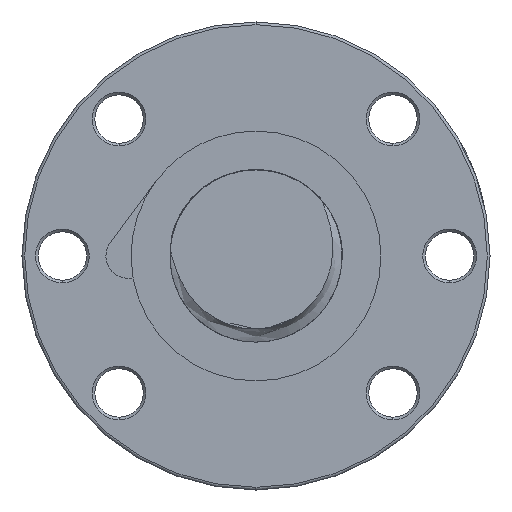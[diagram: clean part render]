
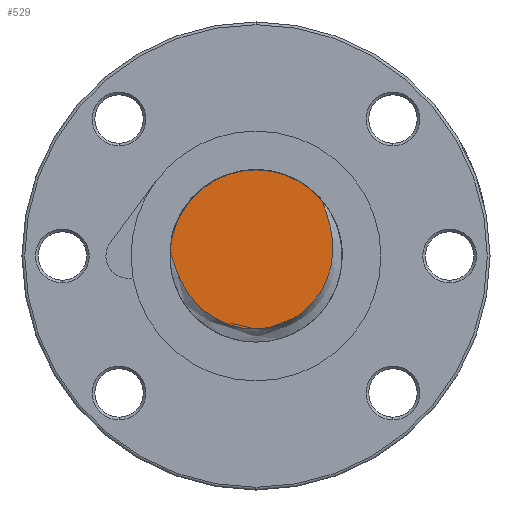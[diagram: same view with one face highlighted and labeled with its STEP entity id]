
A CAD part, left-side view. The second image highlights one B-rep face of the part: STEP entity #529.
In plain terms, the highlighted planar face has unit normal (-1, 0, 0).
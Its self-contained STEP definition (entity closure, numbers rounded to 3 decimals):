
#207 = EDGE_CURVE ( 'NONE', #1281, #208, #3668, .T. ) ;
#208 = VERTEX_POINT ( 'NONE', #3664 ) ;
#529 = ADVANCED_FACE ( 'NONE', ( #45760 ), #45750, .F. ) ;
#530 = ORIENTED_EDGE ( 'NONE', *, *, #1279, .F. ) ;
#531 = ORIENTED_EDGE ( 'NONE', *, *, #536, .T. ) ;
#536 = EDGE_CURVE ( 'NONE', #1280, #208, #45737, .T. ) ;
#537 = ORIENTED_EDGE ( 'NONE', *, *, #207, .F. ) ;
#553 = EDGE_LOOP ( 'NONE', ( #530, #531, #537 ) ) ;
#1279 = EDGE_CURVE ( 'NONE', #1280, #1281, #13437, .T. ) ;
#1280 = VERTEX_POINT ( 'NONE', #13438 ) ;
#1281 = VERTEX_POINT ( 'NONE', #13433 ) ;
#3591 = CARTESIAN_POINT ( 'NONE',  ( -203., 0., 0. ) ) ;
#3664 = CARTESIAN_POINT ( 'NONE',  ( -203., -12.254, 10.288 ) ) ;
#3665 = DIRECTION ( 'NONE',  ( 0., 1., 0. ) ) ;
#3666 = DIRECTION ( 'NONE',  ( 1., 0., 0. ) ) ;
#3667 = AXIS2_PLACEMENT_3D ( 'NONE', #3591, #3666, #3665 ) ;
#3668 = CIRCLE ( 'NONE', #3667, 16. ) ;
#13433 = CARTESIAN_POINT ( 'NONE',  ( -203., 0., 16. ) ) ;
#13434 = DIRECTION ( 'NONE',  ( 0., 1., 0. ) ) ;
#13435 = DIRECTION ( 'NONE',  ( 1., 0., 0. ) ) ;
#13436 = AXIS2_PLACEMENT_3D ( 'NONE', #13443, #13435, #13434 ) ;
#13437 = CIRCLE ( 'NONE', #13436, 16. ) ;
#13438 = CARTESIAN_POINT ( 'NONE',  ( -203., 15.961, 1.121 ) ) ;
#13443 = CARTESIAN_POINT ( 'NONE',  ( -203., 0., 0. ) ) ;
#45675 = CARTESIAN_POINT ( 'NONE',  ( -203., -12.254, 10.288 ) ) ;
#45676 = CARTESIAN_POINT ( 'NONE',  ( -203., -12.336, 10.009 ) ) ;
#45677 = CARTESIAN_POINT ( 'NONE',  ( -203., -12.434, 9.735 ) ) ;
#45678 = CARTESIAN_POINT ( 'NONE',  ( -203., -12.633, 9.188 ) ) ;
#45679 = CARTESIAN_POINT ( 'NONE',  ( -203., -12.735, 8.916 ) ) ;
#45680 = CARTESIAN_POINT ( 'NONE',  ( -203., -13.036, 8.096 ) ) ;
#45681 = CARTESIAN_POINT ( 'NONE',  ( -203., -13.229, 7.547 ) ) ;
#45682 = CARTESIAN_POINT ( 'NONE',  ( -203., -13.573, 6.437 ) ) ;
#45683 = CARTESIAN_POINT ( 'NONE',  ( -203., -13.726, 5.876 ) ) ;
#45684 = CARTESIAN_POINT ( 'NONE',  ( -203., -13.98, 4.739 ) ) ;
#45685 = CARTESIAN_POINT ( 'NONE',  ( -203., -14.082, 4.161 ) ) ;
#45686 = CARTESIAN_POINT ( 'NONE',  ( -203., -14.299, 2.429 ) ) ;
#45687 = CARTESIAN_POINT ( 'NONE',  ( -203., -14.331, 1.272 ) ) ;
#45688 = CARTESIAN_POINT ( 'NONE',  ( -203., -14.187, -0.468 ) ) ;
#45689 = CARTESIAN_POINT ( 'NONE',  ( -203., -14.107, -1.051 ) ) ;
#45690 = CARTESIAN_POINT ( 'NONE',  ( -203., -13.884, -2.192 ) ) ;
#45691 = CARTESIAN_POINT ( 'NONE',  ( -203., -13.741, -2.753 ) ) ;
#45692 = CARTESIAN_POINT ( 'NONE',  ( -203., -13.393, -3.857 ) ) ;
#45693 = CARTESIAN_POINT ( 'NONE',  ( -203., -13.188, -4.399 ) ) ;
#45694 = CARTESIAN_POINT ( 'NONE',  ( -203., -12.711, -5.463 ) ) ;
#45695 = CARTESIAN_POINT ( 'NONE',  ( -203., -12.44, -5.985 ) ) ;
#45696 = CARTESIAN_POINT ( 'NONE',  ( -203., -11.548, -7.481 ) ) ;
#45697 = CARTESIAN_POINT ( 'NONE',  ( -203., -10.844, -8.399 ) ) ;
#45698 = CARTESIAN_POINT ( 'NONE',  ( -203., -9.615, -9.653 ) ) ;
#45699 = CARTESIAN_POINT ( 'NONE',  ( -203., -9.181, -10.045 ) ) ;
#45700 = CARTESIAN_POINT ( 'NONE',  ( -203., -8.276, -10.77 ) ) ;
#45701 = CARTESIAN_POINT ( 'NONE',  ( -203., -7.804, -11.104 ) ) ;
#45702 = CARTESIAN_POINT ( 'NONE',  ( -203., -6.819, -11.714 ) ) ;
#45703 = CARTESIAN_POINT ( 'NONE',  ( -203., -6.305, -11.992 ) ) ;
#45704 = CARTESIAN_POINT ( 'NONE',  ( -203., -5.242, -12.483 ) ) ;
#45705 = CARTESIAN_POINT ( 'NONE',  ( -203., -4.701, -12.694 ) ) ;
#45706 = CARTESIAN_POINT ( 'NONE',  ( -203., -3.6, -13.05 ) ) ;
#45707 = CARTESIAN_POINT ( 'NONE',  ( -203., -3.04, -13.194 ) ) ;
#45708 = CARTESIAN_POINT ( 'NONE',  ( -203., -2.185, -13.359 ) ) ;
#45709 = CARTESIAN_POINT ( 'NONE',  ( -203., -1.898, -13.406 ) ) ;
#45710 = CARTESIAN_POINT ( 'NONE',  ( -203., -1.319, -13.482 ) ) ;
#45711 = CARTESIAN_POINT ( 'NONE',  ( -203., -1.026, -13.511 ) ) ;
#45712 = CARTESIAN_POINT ( 'NONE',  ( -203., 0.429, -13.612 ) ) ;
#45713 = CARTESIAN_POINT ( 'NONE',  ( -203., 1.583, -13.553 ) ) ;
#45714 = CARTESIAN_POINT ( 'NONE',  ( -203., 3.301, -13.257 ) ) ;
#45715 = CARTESIAN_POINT ( 'NONE',  ( -203., 3.874, -13.122 ) ) ;
#45716 = CARTESIAN_POINT ( 'NONE',  ( -203., 4.99, -12.789 ) ) ;
#45717 = CARTESIAN_POINT ( 'NONE',  ( -203., 5.534, -12.591 ) ) ;
#45718 = CARTESIAN_POINT ( 'NONE',  ( -203., 6.593, -12.132 ) ) ;
#45719 = CARTESIAN_POINT ( 'NONE',  ( -203., 7.109, -11.872 ) ) ;
#45720 = CARTESIAN_POINT ( 'NONE',  ( -203., 8.114, -11.29 ) ) ;
#45721 = CARTESIAN_POINT ( 'NONE',  ( -203., 8.606, -10.966 ) ) ;
#45722 = CARTESIAN_POINT ( 'NONE',  ( -203., 10.008, -9.923 ) ) ;
#45723 = CARTESIAN_POINT ( 'NONE',  ( -203., 10.85, -9.131 ) ) ;
#45724 = CARTESIAN_POINT ( 'NONE',  ( -203., 11.983, -7.808 ) ) ;
#45725 = CARTESIAN_POINT ( 'NONE',  ( -203., 12.341, -7.341 ) ) ;
#45726 = CARTESIAN_POINT ( 'NONE',  ( -203., 13., -6.382 ) ) ;
#45727 = CARTESIAN_POINT ( 'NONE',  ( -203., 13.301, -5.889 ) ) ;
#45728 = CARTESIAN_POINT ( 'NONE',  ( -203., 14.13, -4.374 ) ) ;
#45729 = CARTESIAN_POINT ( 'NONE',  ( -203., 14.579, -3.315 ) ) ;
#45730 = CARTESIAN_POINT ( 'NONE',  ( -203., 15.139, -1.671 ) ) ;
#45731 = CARTESIAN_POINT ( 'NONE',  ( -203., 15.305, -1.113 ) ) ;
#45732 = CARTESIAN_POINT ( 'NONE',  ( -203., 15.543, -0.273 ) ) ;
#45733 = CARTESIAN_POINT ( 'NONE',  ( -203., 15.621, 0.008 ) ) ;
#45734 = CARTESIAN_POINT ( 'NONE',  ( -203., 15.781, 0.568 ) ) ;
#45735 = CARTESIAN_POINT ( 'NONE',  ( -203., 15.862, 0.847 ) ) ;
#45736 = CARTESIAN_POINT ( 'NONE',  ( -203., 15.961, 1.121 ) ) ;
#45737 = B_SPLINE_CURVE_WITH_KNOTS ( 'NONE', 3,
 ( #45736, #45735, #45734, #45733, #45732, #45731, #45730, #45729, #45728, #45727, #45726, #45725, #45724, #45723, #45722, #45721, #45720, #45719, #45718, #45717, #45716, #45715, #45714, #45713, #45712, #45711, #45710, #45709, #45708, #45707, #45706, #45705, #45704, #45703, #45702, #45701, #45700, #45699, #45698, #45697, #45696, #45695, #45694, #45693, #45692, #45691, #45690, #45689, #45688, #45687, #45686, #45685, #45684, #45683, #45682, #45681, #45680, #45679, #45678, #45677, #45676, #45675 ),
 .UNSPECIFIED., .F., .F.,
 ( 4, 2, 2, 2, 2, 2, 2, 2, 2, 2, 2, 2, 2, 2, 2, 2, 2, 2, 2, 2, 2, 2, 2, 2, 2, 2, 2, 2, 2, 2, 4 ),
 ( 0.001, 0.001, 0.002, 0.004, 0.008, 0.009, 0.011, 0.015, 0.016, 0.018, 0.02, 0.022, 0.025, 0.026, 0.027, 0.029, 0.03, 0.032, 0.034, 0.035, 0.039, 0.041, 0.042, 0.044, 0.046, 0.049, 0.051, 0.053, 0.055, 0.056, 0.056 ),
 .UNSPECIFIED. ) ;
#45739 = DIRECTION ( 'NONE',  ( 0., 0., -1. ) ) ;
#45740 = DIRECTION ( 'NONE',  ( 1., 0., 0. ) ) ;
#45741 = CARTESIAN_POINT ( 'NONE',  ( -203., 0., 0. ) ) ;
#45750 = PLANE ( 'NONE',  #45758 ) ;
#45758 = AXIS2_PLACEMENT_3D ( 'NONE', #45741, #45740, #45739 ) ;
#45760 = FACE_OUTER_BOUND ( 'NONE', #553, .T. ) ;
